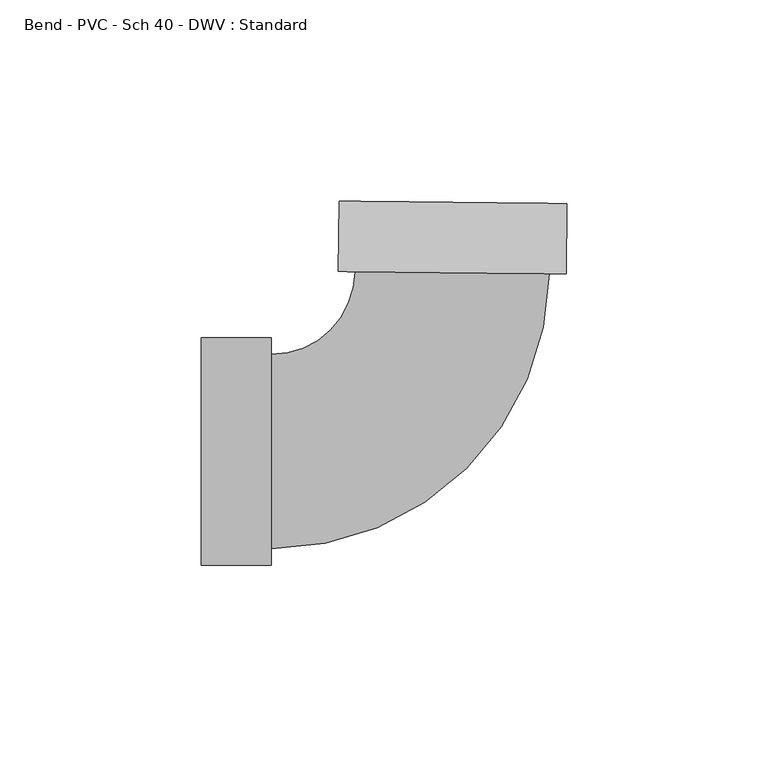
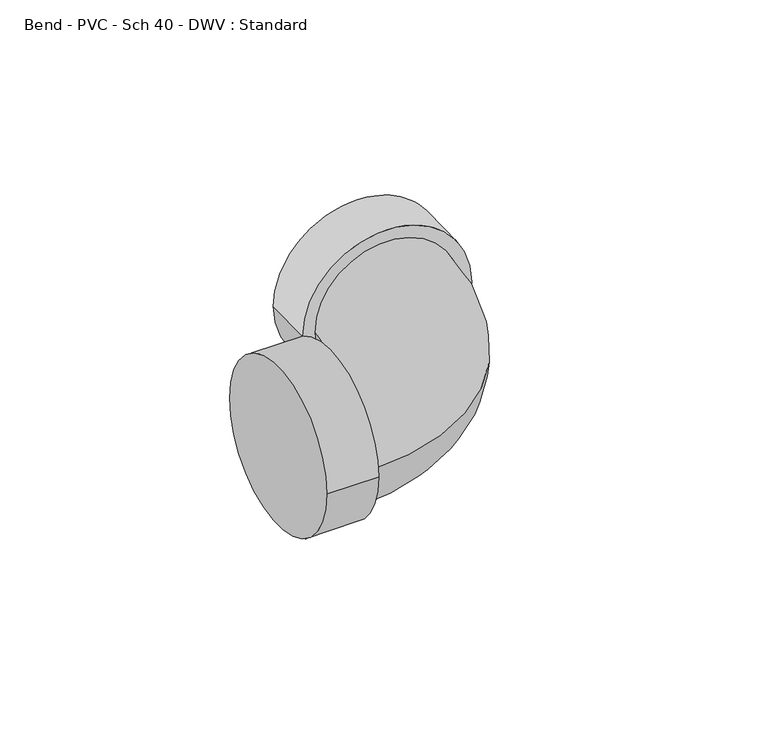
"""IFC4 building model written with IfcOpenShell, lengths in millimetres: pipe fitting geometry, Bend - PVC - Sch 40 - DWV : Standard."""

import ifcopenshell
import ifcopenshell.guid

model = None  # the IFC model being written
_history = None  # IfcOwnerHistory: only IFC2X3 demands one
_inside = {}  # id of a spatial element -> (the spatial element, [elements in it])
_under = {}  # id of a project, library or spatial element -> (it, [spatial elements below it])
_declared = {}  # id of a project -> (the project, [libraries it declares])
_typed = {}  # id of a type object -> (the type object, [elements of that type])
_made_of = {}  # id of a material, layer set ... -> (it, [elements and type objects made of it])


def new_model(schema):
    """Start an empty IFC model of exactly this schema.

    Asked for "IFC4X3", IfcOpenShell would pick the latest addendum, in which some entities
    have other attributes; the version numbers below select the first issue.
    IFC2X3 requires an IfcOwnerHistory on every rooted entity: one is made here for all.
    """
    global model, _history
    if schema == "IFC4X3":
        model = ifcopenshell.file(schema_version=(4, 3, 0, 0))
    else:
        model = ifcopenshell.file(schema=schema)
    _inside.clear()
    _under.clear()
    _declared.clear()
    _typed.clear()
    _made_of.clear()
    _history = None
    if model.schema == "IFC2X3":
        org = make("IfcOrganization", Name="unknown")
        user = make(
            "IfcPersonAndOrganization",
            ThePerson=make("IfcPerson", FamilyName="unknown"),
            TheOrganization=org,
        )
        app = make(
            "IfcApplication",
            ApplicationDeveloper=org,
            Version="unknown",
            ApplicationFullName="unknown",
            ApplicationIdentifier="unknown",
        )
        _history = make(
            "IfcOwnerHistory",
            OwningUser=user,
            OwningApplication=app,
            ChangeAction="ADDED",
            CreationDate=0,
        )
    return model


def make(cls, **values):
    """One entity of the class cls with the attributes given. An attribute that is None is left unset."""
    return model.create_entity(
        cls, **{name: value for name, value in values.items() if value is not None}
    )


def rooted(cls, **values):
    """An entity with a GlobalId (a new one), such as an element, a storey or a relation."""
    return make(cls, GlobalId=ifcopenshell.guid.new(), OwnerHistory=_history, **values)


def si_unit(unit_type, name, prefix=None):
    """IfcSIUnit, for example si_unit("LENGTHUNIT", "METRE", prefix="MILLI")."""
    return make("IfcSIUnit", UnitType=unit_type, Prefix=prefix, Name=name)


def assignment(units):
    """IfcUnitAssignment: the units of a project."""
    return None if units is None else make("IfcUnitAssignment", Units=units)


def point(xyz):
    """IfcCartesianPoint."""
    return None if xyz is None else make("IfcCartesianPoint", Coordinates=xyz)


def direction(xyz):
    """IfcDirection."""
    return None if xyz is None else make("IfcDirection", DirectionRatios=xyz)


def frame(location, z_axis=None, x_axis=None):
    """IfcAxis2Placement3D, a coordinate frame: its origin and axes. An axis left out is left unset."""
    return make(
        "IfcAxis2Placement3D",
        Location=point(location),
        Axis=direction(z_axis),
        RefDirection=direction(x_axis),
    )


def origin():
    """The frame at (0, 0, 0) with its axes left unset."""
    return frame((0.0, 0.0, 0.0))


def place(relative_to, where):
    """IfcLocalPlacement: puts the frame where relative to a parent placement (None: the world)."""
    return make(
        "IfcLocalPlacement", PlacementRelTo=relative_to, RelativePlacement=where
    )


def context(
    kind, dimensions, precision=None, world=None, true_north=None, identifier=None
):
    """IfcGeometricRepresentationContext, for example the 3D "Model" context."""
    return make(
        "IfcGeometricRepresentationContext",
        ContextIdentifier=identifier,
        ContextType=kind,
        CoordinateSpaceDimension=dimensions,
        Precision=precision,
        WorldCoordinateSystem=world,
        TrueNorth=true_north,
    )


def project(units=None, contexts=None):
    """IfcProject with its units and contexts."""
    return rooted(
        "IfcProject",
        Name="project",
        RepresentationContexts=contexts,
        UnitsInContext=assignment(units),
    )


def spatial(cls, under=None, at=None, **own):
    """A site, building, storey or space (cls), placed at a placement, below another one or the project."""
    s = rooted(cls, ObjectPlacement=at, **own)
    if under is not None:
        _under.setdefault(under.id(), (under, []))[1].append(s)
    return s


def circle_curve(where, radius):
    """IfcCircle in the frame where."""
    return make("IfcCircle", Position=where, Radius=radius)


def ellipse_curve(where, semi_axis1, semi_axis2):
    """IfcEllipse in the frame where."""
    return make(
        "IfcEllipse", Position=where, SemiAxis1=semi_axis1, SemiAxis2=semi_axis2
    )


def trimmed(basis, trim1, trim2, sense, master):
    """IfcTrimmedCurve: the piece of a basis curve between two trims."""
    return make(
        "IfcTrimmedCurve",
        BasisCurve=basis,
        Trim1=trim1,
        Trim2=trim2,
        SenseAgreement=sense,
        MasterRepresentation=master,
    )


def shape(context_of_items, identifier, shape_type, items):
    """IfcShapeRepresentation: the items that make up one representation, for example the "Body"."""
    return make(
        "IfcShapeRepresentation",
        ContextOfItems=context_of_items,
        RepresentationIdentifier=identifier,
        RepresentationType=shape_type,
        Items=items,
    )


def source(mapping_origin, context_of_items, identifier, shape_type, items):
    """IfcRepresentationMap: a shape defined once, which mapped items show again and again."""
    return make(
        "IfcRepresentationMap",
        MappingOrigin=mapping_origin,
        MappedRepresentation=shape(context_of_items, identifier, shape_type, items),
    )


def transform(
    local_origin,
    x_axis=None,
    y_axis=None,
    z_axis=None,
    scale=None,
    scale2=None,
    scale3=None,
    uniform=True,
):
    """IfcCartesianTransformationOperator3D, or its non-uniform kind. x_axis, y_axis, z_axis: its Axis1, 2, 3."""
    if uniform:
        return make(
            "IfcCartesianTransformationOperator3D",
            Axis1=direction(x_axis),
            Axis2=direction(y_axis),
            LocalOrigin=point(local_origin),
            Scale=scale,
            Axis3=direction(z_axis),
        )
    return make(
        "IfcCartesianTransformationOperator3DnonUniform",
        Axis1=direction(x_axis),
        Axis2=direction(y_axis),
        LocalOrigin=point(local_origin),
        Scale=scale,
        Axis3=direction(z_axis),
        Scale2=scale2,
        Scale3=scale3,
    )


def mapped(mapping_source, mapping_target):
    """IfcMappedItem: shows the shape of a source again, moved by a transform."""
    return make(
        "IfcMappedItem", MappingSource=mapping_source, MappingTarget=mapping_target
    )


def made_of(thing, what):
    """Note that an element or type object is made of a material, layer set ...; save() writes the relation."""
    if what is not None:
        _made_of.setdefault(what.id(), (what, []))[1].append(thing)
    return thing


def element(
    cls,
    number,
    at=None,
    inside=None,
    cuts=None,
    type_object=None,
    material=None,
    context=None,
    identifier="Body",
    shape_type=None,
    held_by="IfcProductDefinitionShape",
    body=None,
    shapes=None,
    **own,
):
    """One element of the class cls, such as IfcWall. Its Tag is "e" and its number.

    at: its placement. inside: the storey or other place that contains it. cuts: it is an
    opening in that element (IfcRelVoidsElement). A single representation is given by context,
    identifier, shape_type and body (its items); several are given by shapes. held_by: the class
    of the entity that holds the representations. save() writes the other relations.
    """
    e = rooted(cls, Tag="e%d" % number, ObjectPlacement=at, **own)
    if body is not None:
        shapes = [shape(context, identifier, shape_type, body)]
    if shapes is not None:
        e.Representation = make(held_by, Representations=shapes)
    if inside is not None:
        _inside.setdefault(inside.id(), (inside, []))[1].append(e)
    if cuts is not None:
        rooted(
            "IfcRelVoidsElement", RelatingBuildingElement=cuts, RelatedOpeningElement=e
        )
    if type_object is not None:
        _typed.setdefault(type_object.id(), (type_object, []))[1].append(e)
    return made_of(e, material)


def aggregate(whole, parts):
    """IfcRelAggregates: a whole, such as a stair, and the parts it consists of."""
    return rooted("IfcRelAggregates", RelatingObject=whole, RelatedObjects=parts)


def save(model, path):
    """Write the relations noted so far, then the file.

    IfcRelAggregates (storeys below a building ...), IfcRelContainedInSpatialStructure (elements
    in a storey), IfcRelDefinesByType, IfcRelAssociatesMaterial and IfcRelDeclares: one each for
    every whole, place, type object, material and project.
    """
    for whole, parts in _under.values():
        aggregate(whole, parts)
    for where, things in _inside.values():
        rooted(
            "IfcRelContainedInSpatialStructure",
            RelatedElements=things,
            RelatingStructure=where,
        )
    for kind, things in _typed.values():
        rooted("IfcRelDefinesByType", RelatedObjects=things, RelatingType=kind)
    for what, things in _made_of.values():
        rooted("IfcRelAssociatesMaterial", RelatedObjects=things, RelatingMaterial=what)
    for by, libraries in _declared.values():
        rooted("IfcRelDeclares", RelatingContext=by, RelatedDefinitions=libraries)
    model.write(path)


def plane_surface(at):
    """IfcPlane: the flat surface through the origin of the frame at, square to its z axis."""
    return make("IfcPlane", Position=at)


def cylinder_surface(at, radius):
    """IfcCylindricalSurface: all points at the distance radius from the z axis of the frame at."""
    return make("IfcCylindricalSurface", Position=at, Radius=radius)


def revolved_surface(curve, axis_point, axis_direction):
    """IfcSurfaceOfRevolution: the curve turned about the line through axis_point along axis_direction."""
    return make(
        "IfcSurfaceOfRevolution",
        SweptCurve=make("IfcArbitraryOpenProfileDef", ProfileType="CURVE", Curve=curve),
        AxisPosition=make("IfcAxis1Placement", Location=point(axis_point), Axis=direction(axis_direction)),
    )


def advanced_brep(points, edges, surfaces, faces):
    """IfcAdvancedBrep: a solid bounded by faces that lie on surfaces and meet in shared edges.

    An edge is (start, end): straight between two places in points (the first is 0);
    or (start, end, curve); or (start, end, curve, False) where it runs against its curve.
    A face is (place in surfaces, loops), or (place, loops, False) where it looks against
    its surface's normal. A loop lists edges by number (the first is 1), with a minus sign
    where the edge is run from its end to its start. The first loop is the outer one.
    """
    corners = [point(p) for p in points]
    vertices = [make("IfcVertexPoint", VertexGeometry=c) for c in corners]
    made = []
    for start, end, *more in edges:
        made.append(
            make(
                "IfcEdgeCurve",
                EdgeStart=vertices[start],
                EdgeEnd=vertices[end],
                EdgeGeometry=more[0] if more else make("IfcPolyline", Points=[corners[start], corners[end]]),
                SameSense=more[1] if len(more) > 1 else True,
            )
        )
    hull = []
    for where, loops, *sense in faces:
        bounds = []
        for j, loop in enumerate(loops):
            ring = [make("IfcOrientedEdge", EdgeElement=made[abs(k) - 1], Orientation=k > 0) for k in loop]
            bounds.append(
                make(
                    "IfcFaceOuterBound" if j == 0 else "IfcFaceBound",
                    Bound=make("IfcEdgeLoop", EdgeList=ring),
                    Orientation=True,
                )
            )
        hull.append(make("IfcAdvancedFace", Bounds=bounds, FaceSurface=surfaces[where], SameSense=sense[0] if sense else True))
    return make("IfcAdvancedBrep", Outer=make("IfcClosedShell", CfsFaces=hull))


def bend_pvc_sch_40_dwv_standard_78acf712(model_context):
    return source(origin(), model_context, "Body", "AdvancedBrep", [
        advanced_brep(
        [(-61.8998, -28.2829, 0.0), (-61.8998, 28.2829, 0.0), (-44.45, -28.2829, 0.0), (-44.45, 28.2829, 0.0), (-44.45, -24.13, 0.0), (-44.45, 24.13, 0.0), (-23.6656953, 44.6989292, 0.0), (24.5916867, 44.1962481, 0.0), (28.7443614, 44.1529911, 0.0), (-27.81837, 44.7421862, 0.0), (28.9261203, 61.6018444, 0.0), (-27.6366111, 62.1910396, 0.0)],
        [
            (0, 1, circle_curve(frame((-61.8998, 0.0, 0.0), z_axis=(-1.0, 0.0, 0.0), x_axis=(0.0, 1.0, 0.0)), 28.2829)),
            (1, 0, circle_curve(frame((-61.8998, 0.0, 0.0), z_axis=(-1.0, 0.0, 0.0), x_axis=(0.0, 1.0, 0.0)), 28.2829)),
            (2, 3, circle_curve(frame((-44.45, 0.0, 0.0), z_axis=(1.0, 0.0, 0.0), x_axis=(0.0, 1.0, 0.0)), 28.2829)),
            (3, 2, circle_curve(frame((-44.45, 0.0, 0.0), z_axis=(1.0, 0.0, 0.0), x_axis=(0.0, 1.0, 0.0)), 28.2829)),
            (4, 5, circle_curve(frame((-44.45, 0.0, 0.0), z_axis=(-1.0, 0.0, 0.0), x_axis=(0.0, 1.0, 0.0)), 24.13)),
            (5, 4, circle_curve(frame((-44.45, 0.0, 0.0), z_axis=(-1.0, 0.0, 0.0), x_axis=(0.0, 1.0, 0.0)), 24.13)),
            (0, 2),
            (3, 1),
            (6, 5, circle_curve(frame((-44.45, 44.9154323, 0.0), z_axis=(0.0, 0.0, -1.0), x_axis=(0.0, -1.0, 0.0)), 20.7854323)),
            (4, 7, circle_curve(frame((-44.45, 44.9154323, 0.0), z_axis=(0.0, 0.0, 1.0), x_axis=(0.0, -1.0, 0.0)), 69.0454323)),
            (7, 6, circle_curve(frame((0.4629957, 44.4475886, 0.0), z_axis=(-0.010416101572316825, -0.9999457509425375, 0.0), x_axis=(-0.9999457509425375, 0.010416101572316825, 0.0)), 24.13)),
            (6, 7, circle_curve(frame((0.4629957, 44.4475886, 0.0), z_axis=(-0.010416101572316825, -0.9999457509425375, 0.0), x_axis=(-0.9999457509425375, 0.010416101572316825, 0.0)), 24.13)),
            (8, 9, circle_curve(frame((0.4629957, 44.4475886, 0.0), z_axis=(-0.010416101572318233, -0.9999457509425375, 0.0), x_axis=(-0.9999457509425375, 0.010416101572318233, 0.0)), 28.2829)),
            (9, 8, circle_curve(frame((0.4629957, 44.4475886, 0.0), z_axis=(-0.010416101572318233, -0.9999457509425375, 0.0), x_axis=(-0.9999457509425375, 0.010416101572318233, 0.0)), 28.2829)),
            (10, 11, circle_curve(frame((0.6447546, 61.896442, 0.0), z_axis=(0.010416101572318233, 0.9999457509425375, 0.0), x_axis=(-0.9999457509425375, 0.010416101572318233, 0.0)), 28.2829)),
            (11, 10, circle_curve(frame((0.6447546, 61.896442, 0.0), z_axis=(0.010416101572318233, 0.9999457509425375, 0.0), x_axis=(-0.9999457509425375, 0.010416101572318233, 0.0)), 28.2829)),
            (8, 10),
            (11, 9),
        ],
        [
            plane_surface(frame((-61.8998, 0.0, 0.0), z_axis=(-1.0, 0.0, 0.0), x_axis=(0.0, 0.0, 1.0))),
            plane_surface(frame((-44.45, 0.0, 0.0), z_axis=(1.0, 0.0, 0.0), x_axis=(0.0, 0.0, 1.0))),
            cylinder_surface(frame((-61.8998, 0.0, 0.0), z_axis=(-1.0, 0.0, 0.0), x_axis=(0.0, 1.0, 0.0)), 28.2829),
            revolved_surface(trimmed(ellipse_curve(frame((-44.45, 0.0, 0.0), z_axis=(-1.0, 0.0, 0.0), x_axis=(0.0, 1.0, 0.0)), 24.13, 24.13), [point((-44.45, -24.13, 0.0))], [point((-44.45, 24.13, 0.0))], True, "CARTESIAN"), (-44.45, 44.9154323, 0.0), (0.0, 0.0, 1.0)),
            revolved_surface(trimmed(ellipse_curve(frame((-44.45, 0.0, 0.0), z_axis=(-1.0, 0.0, 0.0), x_axis=(0.0, 1.0, 0.0)), 24.13, 24.13), [point((-44.45, 24.13, 0.0))], [point((-44.45, -24.13, 0.0))], True, "CARTESIAN"), (-44.45, 44.9154323, 0.0), (0.0, 0.0, 1.0)),
            plane_surface(frame((0.4629957, 44.4475886, 0.0), z_axis=(-0.010416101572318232, -0.9999457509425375, 0.0), x_axis=(0.0, 0.0, 1.0))),
            plane_surface(frame((0.6447546, 61.896442, 0.0), z_axis=(0.010416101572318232, 0.9999457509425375, 0.0), x_axis=(0.0, 0.0, 1.0))),
            cylinder_surface(frame((0.4629957, 44.4475886, 0.0), z_axis=(-0.010416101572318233, -0.9999457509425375, 0.0), x_axis=(-0.9999457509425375, 0.010416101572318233, 0.0)), 28.2829),
        ],
        [
            (0, [[1, 2]]),
            (1, [[3, 4], [5, 6]]),
            (2, [[-1, 7, -4, 8]]),
            (2, [[-2, -8, -3, -7]]),
            (3, [[9, -5, 10, 11]]),
            (4, [[-9, 12, -10, -6]]),
            (5, [[13, 14], [-11, -12]]),
            (6, [[15, 16]]),
            (7, [[-13, 17, -16, 18]]),
            (7, [[-14, -18, -15, -17]]),
        ],
    ),
    ])


if __name__ == "__main__":
    model = new_model("IFC4")
    model_context = context("Model", 3, world=origin())
    ifc_project = project(units=[si_unit("LENGTHUNIT", "METRE", prefix="MILLI")], contexts=[model_context])
    site = spatial("IfcSite", under=ifc_project)
    building = spatial("IfcBuilding", under=site)
    placement = place(None, origin())
    bend_pvc_sch_40_dwv_standard_shape = bend_pvc_sch_40_dwv_standard_78acf712(model_context)
    element("IfcPipeFitting", 1, ObjectType="Bend - PVC - Sch 40 - DWV : Standard", at=placement, inside=building, context=model_context, shape_type="MappedRepresentation", body=[
        mapped(bend_pvc_sch_40_dwv_standard_shape, transform((0.0, 0.0, 0.0), x_axis=(1.0, 0.0, 0.0), y_axis=(0.0, 1.0, 0.0), z_axis=(0.0, 0.0, 1.0))),
    ])
    save(model, "model.ifc")
